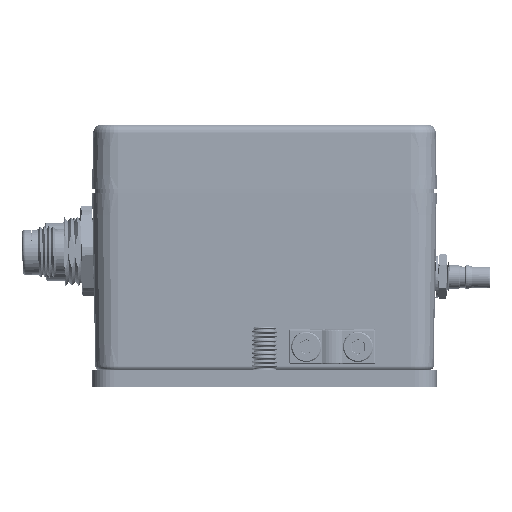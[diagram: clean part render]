
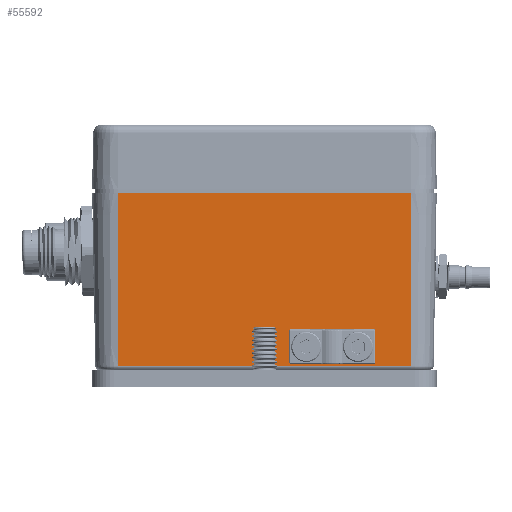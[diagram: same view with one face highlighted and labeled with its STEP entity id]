
A CAD part, left-side view. The second image highlights one B-rep face of the part: STEP entity #55592.
In plain terms, the highlighted planar face has unit normal (-1, 0, -0.018).
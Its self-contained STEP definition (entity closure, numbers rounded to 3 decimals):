
#4305=CARTESIAN_POINT('',(-276.863,-118.596,-36.519));
#4306=VERTEX_POINT('',#4305);
#4331=CARTESIAN_POINT('',(-276.863,-114.85,-36.519));
#4332=VERTEX_POINT('',#4331);
#4339=CARTESIAN_POINT('',(-276.863,-116.723,-36.519));
#4340=DIRECTION('',(-1.,0.0,-0.017));
#4341=DIRECTION('',(0.0,-1.0,0.0));
#4342=AXIS2_PLACEMENT_3D('',#4339,#4340,#4341);
#4343=CIRCLE('',#4342,1.873);
#4344=EDGE_CURVE('',#4332,#4306,#4343,.T.);
#4667=CARTESIAN_POINT('',(-276.863,-102.85,-36.519));
#4668=VERTEX_POINT('',#4667);
#4693=CARTESIAN_POINT('',(-276.863,-106.596,-36.519));
#4694=VERTEX_POINT('',#4693);
#4701=CARTESIAN_POINT('',(-276.863,-104.723,-36.519));
#4702=DIRECTION('',(-1.,0.0,-0.017));
#4703=DIRECTION('',(0.0,1.0,0.0));
#4704=AXIS2_PLACEMENT_3D('',#4701,#4702,#4703);
#4705=CIRCLE('',#4704,1.873);
#4706=EDGE_CURVE('',#4694,#4668,#4705,.T.);
#55533=CARTESIAN_POINT('',(-277.5,-95.0,0.0));
#55534=DIRECTION('',(-1.,0.0,-0.017));
#55535=DIRECTION('',(0.0,1.0,0.0));
#55536=AXIS2_PLACEMENT_3D('',#55533,#55534,#55535);
#55537=PLANE('',#55536);
#55538=CARTESIAN_POINT('',(-276.784,-129.0,-41.017));
#55539=VERTEX_POINT('',#55538);
#55540=CARTESIAN_POINT('',(-276.784,-61.0,-41.017));
#55541=VERTEX_POINT('',#55540);
#55542=CARTESIAN_POINT('',(-276.784,-129.0,-41.017));
#55543=DIRECTION('',(0.0,1.0,0.0));
#55544=VECTOR('',#55543,68.0);
#55545=LINE('',#55542,#55544);
#55546=EDGE_CURVE('',#55539,#55541,#55545,.T.);
#55547=ORIENTED_EDGE('',*,*,#55546,.F.);
#55548=CARTESIAN_POINT('',(-277.483,-129.0,-1.0));
#55549=VERTEX_POINT('',#55548);
#55550=CARTESIAN_POINT('',(-277.483,-129.0,-1.0));
#55551=DIRECTION('',(0.017,0.0,-1.));
#55552=VECTOR('',#55551,40.024);
#55553=LINE('',#55550,#55552);
#55554=EDGE_CURVE('',#55549,#55539,#55553,.T.);
#55555=ORIENTED_EDGE('',*,*,#55554,.F.);
#55556=CARTESIAN_POINT('',(-277.483,-61.0,-1.0));
#55557=VERTEX_POINT('',#55556);
#55558=CARTESIAN_POINT('',(-277.483,-129.0,-1.0));
#55559=DIRECTION('',(0.0,1.0,0.0));
#55560=VECTOR('',#55559,68.0);
#55561=LINE('',#55558,#55560);
#55562=EDGE_CURVE('',#55549,#55557,#55561,.T.);
#55563=ORIENTED_EDGE('',*,*,#55562,.T.);
#55564=CARTESIAN_POINT('',(-277.483,-61.0,-1.0));
#55565=DIRECTION('',(0.017,0.0,-1.));
#55566=VECTOR('',#55565,40.024);
#55567=LINE('',#55564,#55566);
#55568=EDGE_CURVE('',#55557,#55541,#55567,.T.);
#55569=ORIENTED_EDGE('',*,*,#55568,.T.);
#55570=EDGE_LOOP('',(#55547,#55555,#55563,#55569));
#55571=FACE_OUTER_BOUND('',#55570,.T.);
#55572=ORIENTED_EDGE('',*,*,#4706,.F.);
#55573=CARTESIAN_POINT('',(-276.863,-104.723,-36.519));
#55574=DIRECTION('',(-1.,0.0,-0.017));
#55575=DIRECTION('',(0.0,1.0,0.0));
#55576=AXIS2_PLACEMENT_3D('',#55573,#55574,#55575);
#55577=CIRCLE('',#55576,1.873);
#55578=EDGE_CURVE('',#4668,#4694,#55577,.T.);
#55579=ORIENTED_EDGE('',*,*,#55578,.F.);
#55580=EDGE_LOOP('',(#55572,#55579));
#55581=FACE_BOUND('',#55580,.T.);
#55582=ORIENTED_EDGE('',*,*,#4344,.F.);
#55583=CARTESIAN_POINT('',(-276.863,-116.723,-36.519));
#55584=DIRECTION('',(-1.,0.0,-0.017));
#55585=DIRECTION('',(0.0,-1.0,0.0));
#55586=AXIS2_PLACEMENT_3D('',#55583,#55584,#55585);
#55587=CIRCLE('',#55586,1.873);
#55588=EDGE_CURVE('',#4306,#4332,#55587,.T.);
#55589=ORIENTED_EDGE('',*,*,#55588,.F.);
#55590=EDGE_LOOP('',(#55582,#55589));
#55591=FACE_BOUND('',#55590,.T.);
#55592=ADVANCED_FACE('',(#55571,#55581,#55591),#55537,.T.);
